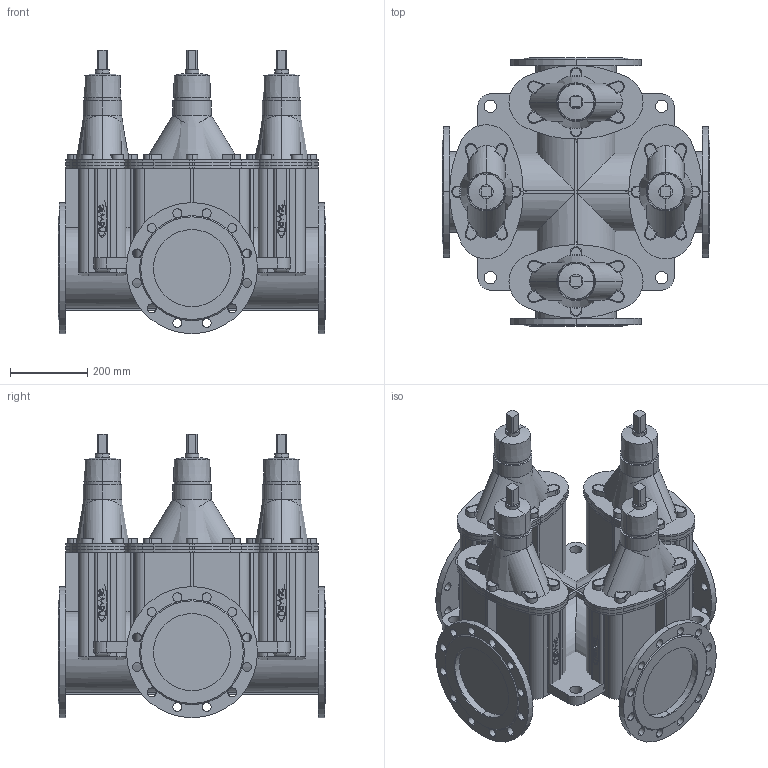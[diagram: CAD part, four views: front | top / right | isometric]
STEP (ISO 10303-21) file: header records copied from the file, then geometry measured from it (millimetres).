
FILE_DESCRIPTION(('STEP AP214'),'1');
FILE_NAME('S:/EK/USER/CAT6/3DHomepage_27-04-2012/neu_23-01-2013/4400E2/4400E2_PN16_DN200_4.STP','2013-01-23T14:51:56',(' '),(' '),'Spatial InterOp 3D',' ',' ');
FILE_SCHEMA(('automotive_design'));
Length unit declared in the file: millimetre
Products named in the file (202): 3D-Objekt
Bounding box: 695 x 695 x 735 mm (x, y, z)
Volume: 110293166.4 mm3; surface area: 6489312.2 mm2
Topology: 202 solids, 202 shells, 1898 faces, 4448 edges, 2962 vertices
Faces by surface type: plane 1010, cylinder 824, cone 32, bspline 16, torus 16
Entity records: 75172 total; most frequent: DIRECTION 10404, CARTESIAN_POINT 9782, ORIENTED_EDGE 8896, EDGE_CURVE 4448, AXIS2_PLACEMENT_3D 3872, VERTEX_POINT 2962, LINE 2660, VECTOR 2660
